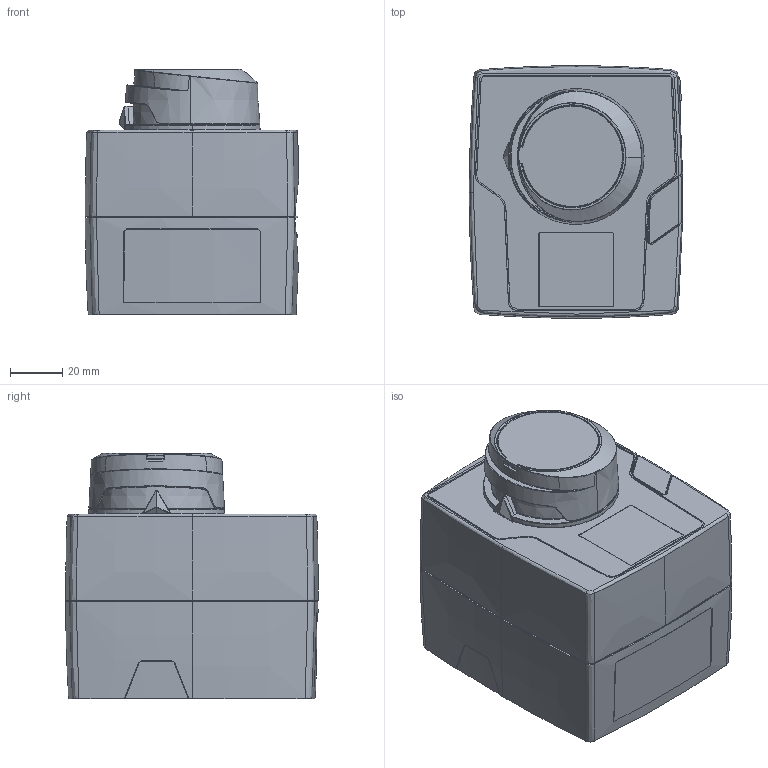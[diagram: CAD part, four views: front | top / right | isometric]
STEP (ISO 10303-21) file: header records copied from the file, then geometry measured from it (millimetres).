
FILE_DESCRIPTION (( 'STEP AP214' ), '1' );
FILE_NAME ('ACT343.STEP', '2022-02-08T07:51:28', ( '' ), ( '' ), 'SwSTEP 2.0', 'SolidWorks 2021', '' );
FILE_SCHEMA (( 'AUTOMOTIVE_DESIGN' ));
Length unit declared in the file: millimetre
Products named in the file (11): M9120014; M9120009; M9120012_V2; M9120001; M9120006; M9120085; M9120016_REV2; M9120007; M9120008; ACT343; M9120013
Assembly tree (10 placements, depth 2):
  ACT343
    M9120016_REV2
    M9120085
    M9120007
    M9120001
    M9120006
    M9120012_V2
    M9120008
    M9120009
    M9120013
    M9120014
Bounding box: 81.89 x 96.9 x 94.15 mm (x, y, z)
Volume: 131083.5 mm3; surface area: 117558 mm2
Topology: 10 solids, 10 shells, 4629 faces, 12438 edges, 7101 vertices
Faces by surface type: bspline 2351, cylinder 959, plane 832, cone 446, torus 41
Entity records: 269512 total; most frequent: CARTESIAN_POINT 128614, ORIENTED_EDGE 23374, EDGE_CURVE 11687, DIRECTION 11353, VERTEX_POINT 7101, B_SPLINE_CURVE_WITH_KNOTS 6323, EDGE_LOOP 4704, UNCERTAINTY_MEASURE_WITH_UNIT 4659
